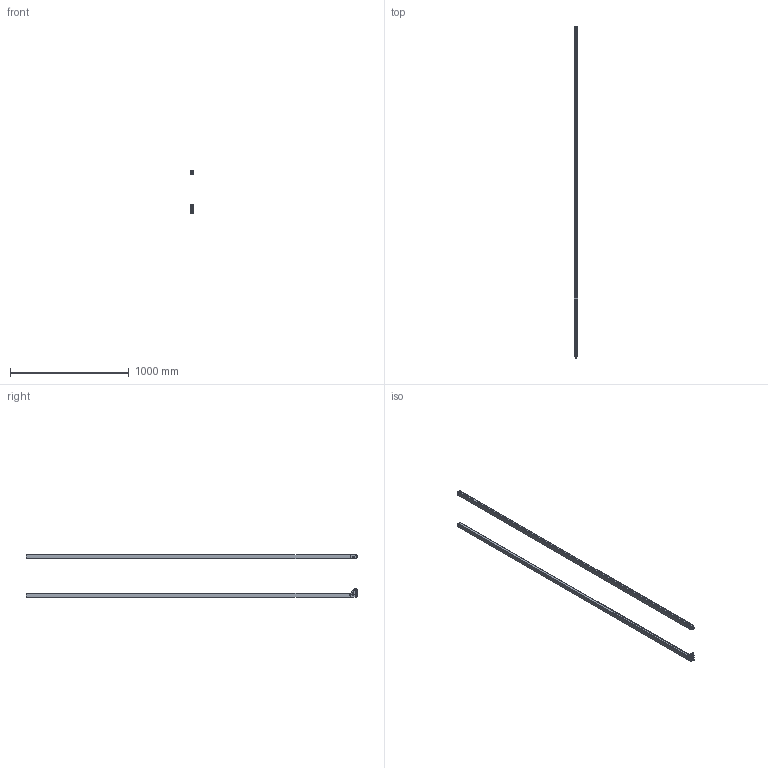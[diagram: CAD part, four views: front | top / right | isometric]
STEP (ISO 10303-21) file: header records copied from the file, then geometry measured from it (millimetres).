
FILE_DESCRIPTION(/* description */ (''),/* implementation_level */ '2;1');
FILE_NAME(/* name */ '3DCAD_CML700i_PN_2720.stp',/* time_stamp */ '2017-09-19T13:54:37+02:00',/* author */ ('CC2'),/* organization */ ('Leuze electronic'),/* preprocessor_version */ 'ST-DEVELOPER v15',/* originating_system */ 'SIEMENS PLM Software NX 8.5',/* authorisation */ '');
FILE_SCHEMA (('AUTOMOTIVE_DESIGN { 1 0 10303 214 3 1 1 1 }'));
Length unit declared in the file: millimetre
Products named in the file (8): 002502_00.0; 002491_00.0; 009185_00.0; 002486_00.0; 005341_00.0; 005339_00.0; 009183_00.0_MODEL; 19-102661_00.0
Assembly tree (8 placements, depth 3):
  19-102661_00.0
    009183_00.0_MODEL
      005341_00.0
      002486_00.0
      009185_00.0
    005339_00.0
      005341_00.0
      002491_00.0
      002502_00.0
Bounding box: 28.99 x 2792.8 x 361.11 mm (x, y, z)
Volume: 4921755.7 mm3; surface area: 858438.1 mm2
Topology: 7 solids, 7 shells, 2495 faces, 6548 edges, 4164 vertices
Faces by surface type: plane 973, cylinder 625, bspline 419, cone 176, extrusion 133, torus 120, sphere 29, revolution 20
Full cylindrical faces by diameter (mm): 0.4 x1, 0.75 x1, 0.85 x1, 1 x18, 2 x2, 2.6 x26, 3.2 x2, 3.5 x4, 4 x2, 6.7 x4, 7 x6, 8.6 x2, 9.3 x2, 10.8 x1, 11 x2, 12 x2, 18 x2
Entity records: 108410 total; most frequent: CARTESIAN_POINT 51571, ORIENTED_EDGE 12056, DIRECTION 10184, EDGE_CURVE 6028, VERTEX_POINT 3928, AXIS2_PLACEMENT_3D 3657, VECTOR 2850, EDGE_LOOP 2752
